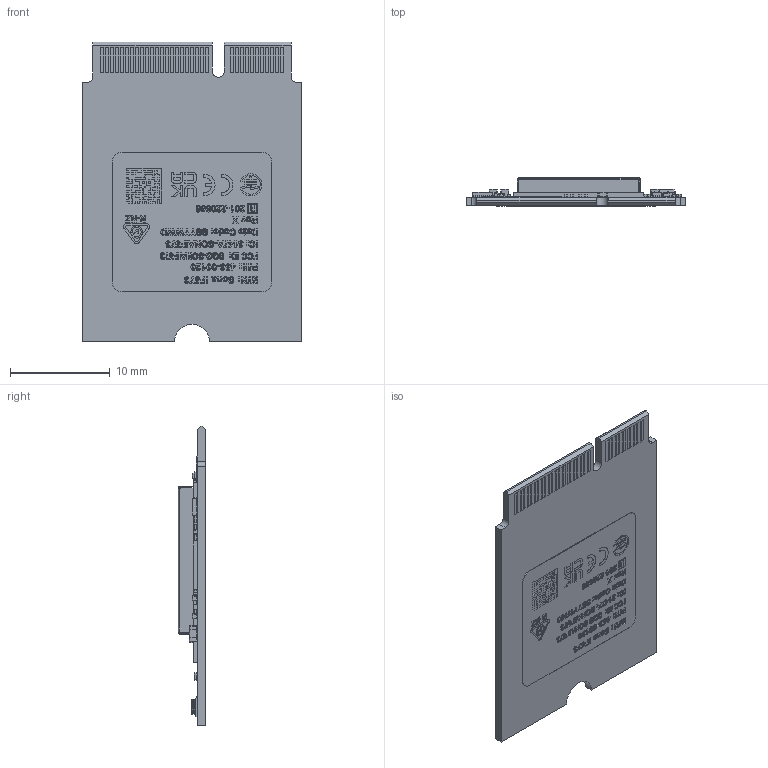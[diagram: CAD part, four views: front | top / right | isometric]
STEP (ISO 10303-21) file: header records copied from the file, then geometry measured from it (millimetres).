
FILE_DESCRIPTION (( 'STEP AP214' ), '1' );
FILE_NAME ('453-00120.STEP', '2026-05-28T01:29:36', ( '' ), ( '' ), 'SwSTEP 2.0', 'SolidWorks 2025', '' );
FILE_SCHEMA (( 'AUTOMOTIVE_DESIGN' ));
Length unit declared in the file: millimetre
Products named in the file (9): 453-00118; 110-00817_453-00118; 750-03375_940-00233, PCIE; 453-00120; 160-02375_453-00120; 940-00233; 940-00165_453-00118_Laser; 160-02376_453-00120; 750-03373-11108201_940-00165, MIMO, ST
Assembly tree (8 placements, depth 5):
  453-00120
    940-00233
      750-03375_940-00233, PCIE
      453-00118
        940-00165_453-00118_Laser
          750-03373-11108201_940-00165, MIMO, ST
          110-00817_453-00118
    160-02375_453-00120
    160-02376_453-00120
Bounding box: 22 x 2.79 x 30 mm (x, y, z)
Volume: 163.3 mm3; surface area: 3730.9 mm2
Topology: 414 solids, 728 shells, 11685 faces, 28089 edges, 17873 vertices
Faces by surface type: plane 8021, cylinder 1636, bspline 1550, sphere 444, cone 30, torus 4
Entity records: 535490 total; most frequent: CARTESIAN_POINT 143011, ORIENTED_EDGE 55137, DIRECTION 46649, EDGE_CURVE 27645, VECTOR 21105, LINE 21105, VERTEX_POINT 17873, AXIS2_PLACEMENT_3D 12772
